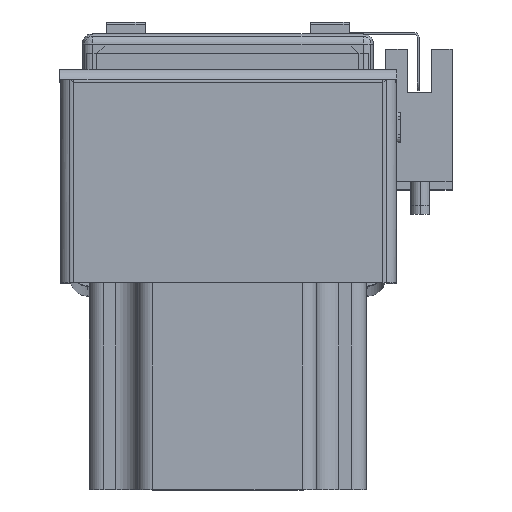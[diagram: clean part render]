
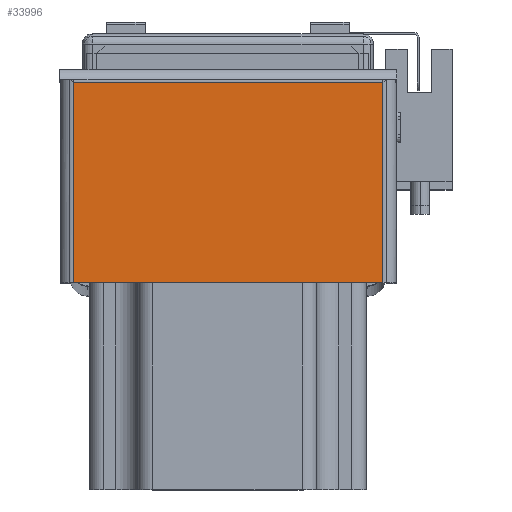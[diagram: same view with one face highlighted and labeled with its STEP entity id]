
A CAD part, top view. The second image highlights one B-rep face of the part: STEP entity #33996.
In plain terms, the highlighted planar face has unit normal (0, 0, 1) as drawn and (1, 0, 0) by its records, which use the part's own axes.
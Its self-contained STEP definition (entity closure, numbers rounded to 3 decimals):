
#4288 = VECTOR ( 'NONE', #10223, 1000. ) ;
#4294 = LINE ( 'NONE', #10170, #4288 ) ;
#4458 = VECTOR ( 'NONE', #10319, 1000. ) ;
#4480 = LINE ( 'NONE', #10335, #4458 ) ;
#4487 = LINE ( 'NONE', #10464, #4531 ) ;
#4515 = LINE ( 'NONE', #10453, #4522 ) ;
#4522 = VECTOR ( 'NONE', #10457, 1000. ) ;
#4531 = VECTOR ( 'NONE', #10455, 1000. ) ;
#5591 = EDGE_CURVE ( 'NONE', #27128, #27115, #4294, .T. ) ;
#5730 = EDGE_CURVE ( 'NONE', #27062, #27044, #4480, .T. ) ;
#5781 = EDGE_CURVE ( 'NONE', #27128, #27062, #4487, .T. ) ;
#5803 = EDGE_CURVE ( 'NONE', #27044, #27115, #4515, .T. ) ;
#10170 = CARTESIAN_POINT ( 'NONE',  ( 2., 42., -31.863 ) ) ;
#10223 = DIRECTION ( 'NONE',  ( 0., -1., 0. ) ) ;
#10319 = DIRECTION ( 'NONE',  ( 0., -1., 0. ) ) ;
#10335 = CARTESIAN_POINT ( 'NONE',  ( 2., 42., 31.863 ) ) ;
#10453 = CARTESIAN_POINT ( 'NONE',  ( 2., 0., -32.6 ) ) ;
#10455 = DIRECTION ( 'NONE',  ( 0., 0., 1. ) ) ;
#10457 = DIRECTION ( 'NONE',  ( 0., 0., -1. ) ) ;
#10464 = CARTESIAN_POINT ( 'NONE',  ( 2., 41.263, -31.863 ) ) ;
#19134 = FACE_OUTER_BOUND ( 'NONE', #33192, .T. ) ;
#20633 = CARTESIAN_POINT ( 'NONE',  ( 2., 0., 31.863 ) ) ;
#20685 = CARTESIAN_POINT ( 'NONE',  ( 2., 41.263, 31.863 ) ) ;
#20740 = CARTESIAN_POINT ( 'NONE',  ( 2., 0., -31.863 ) ) ;
#20743 = CARTESIAN_POINT ( 'NONE',  ( 2., 41.263, -31.863 ) ) ;
#27044 = VERTEX_POINT ( 'NONE', #20633 ) ;
#27062 = VERTEX_POINT ( 'NONE', #20685 ) ;
#27115 = VERTEX_POINT ( 'NONE', #20740 ) ;
#27128 = VERTEX_POINT ( 'NONE', #20743 ) ;
#30099 = CARTESIAN_POINT ( 'NONE',  ( 2., 42., -32.6 ) ) ;
#30105 = PLANE ( 'NONE',  #36491 ) ;
#30113 = DIRECTION ( 'NONE',  ( -1., 0., 0. ) ) ;
#30117 = DIRECTION ( 'NONE',  ( 0., 0., 1. ) ) ;
#32393 = ORIENTED_EDGE ( 'NONE', *, *, #5781, .T. ) ;
#32444 = ORIENTED_EDGE ( 'NONE', *, *, #5803, .T. ) ;
#32449 = ORIENTED_EDGE ( 'NONE', *, *, #5591, .F. ) ;
#32456 = ORIENTED_EDGE ( 'NONE', *, *, #5730, .T. ) ;
#33192 = EDGE_LOOP ( 'NONE', ( #32393, #32456, #32444, #32449 ) ) ;
#33996 = ADVANCED_FACE ( 'NONE', ( #19134 ), #30105, .F. ) ;
#36491 = AXIS2_PLACEMENT_3D ( 'NONE', #30099, #30113, #30117 ) ;
